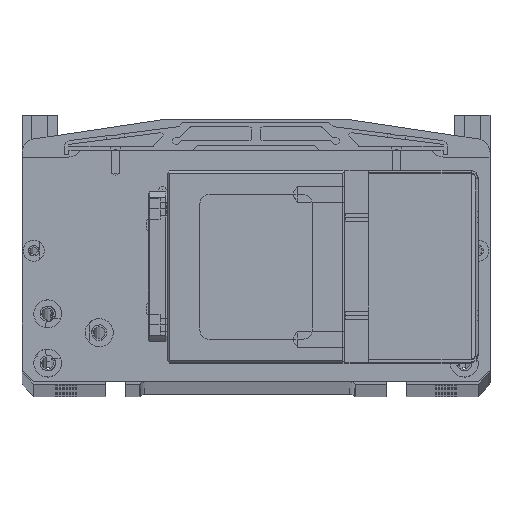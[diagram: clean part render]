
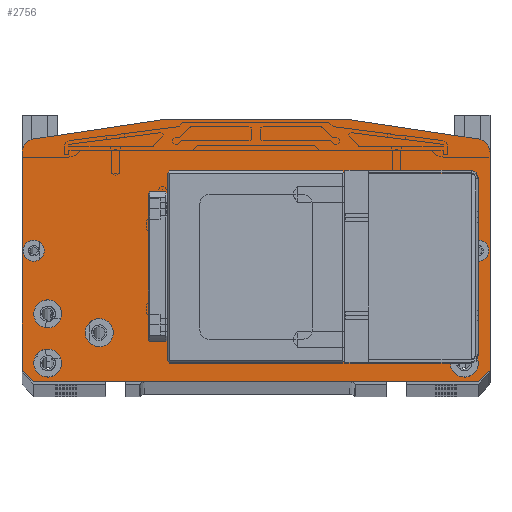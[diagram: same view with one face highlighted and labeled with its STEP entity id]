
A CAD part, top view. The second image highlights one B-rep face of the part: STEP entity #2756.
In plain terms, the highlighted planar face has unit normal (0, 0, 1).
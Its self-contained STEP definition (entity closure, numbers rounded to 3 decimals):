
#620=FACE_BOUND('',#5449,.T.);
#621=FACE_BOUND('',#5450,.T.);
#622=FACE_BOUND('',#5451,.T.);
#623=FACE_BOUND('',#5452,.T.);
#624=FACE_BOUND('',#5453,.T.);
#625=FACE_BOUND('',#5454,.T.);
#626=FACE_BOUND('',#5455,.T.);
#627=FACE_BOUND('',#5456,.T.);
#628=FACE_BOUND('',#5457,.T.);
#629=FACE_BOUND('',#5458,.T.);
#630=FACE_BOUND('',#5459,.T.);
#631=FACE_BOUND('',#5460,.T.);
#632=FACE_BOUND('',#5461,.T.);
#2756=ADVANCED_FACE('',(#620,#621,#622,#623,#624,#625,#626,#627,#628,#629,
#630,#631,#632),#3467,.F.);
#3467=PLANE('',#22692);
#5449=EDGE_LOOP('',(#10928,#10929,#10930,#10931));
#5450=EDGE_LOOP('',(#10932,#10933,#10934,#10935));
#5451=EDGE_LOOP('',(#10936));
#5452=EDGE_LOOP('',(#10937));
#5453=EDGE_LOOP('',(#10938,#10939,#10940,#10941,#10942,#10943,#10944,#10945,
#10946,#10947));
#5454=EDGE_LOOP('',(#10948));
#5455=EDGE_LOOP('',(#10949));
#5456=EDGE_LOOP('',(#10950));
#5457=EDGE_LOOP('',(#10951));
#5458=EDGE_LOOP('',(#10952));
#5459=EDGE_LOOP('',(#10953));
#5460=EDGE_LOOP('',(#10954));
#5461=EDGE_LOOP('',(#10955));
#6728=CIRCLE('',#22574,1.65);
#6743=CIRCLE('',#22603,1.65);
#6748=CIRCLE('',#22617,6.);
#6755=CIRCLE('',#22631,6.);
#6756=CIRCLE('',#22634,4.5);
#6760=CIRCLE('',#22641,4.5);
#6764=CIRCLE('',#22648,6.);
#6768=CIRCLE('',#22655,6.);
#6772=CIRCLE('',#22662,6.);
#6776=CIRCLE('',#22669,6.);
#6780=CIRCLE('',#22676,6.);
#6784=CIRCLE('',#22683,6.);
#10928=ORIENTED_EDGE('',*,*,#17421,.F.);
#10929=ORIENTED_EDGE('',*,*,#17422,.F.);
#10930=ORIENTED_EDGE('',*,*,#17423,.T.);
#10931=ORIENTED_EDGE('',*,*,#17424,.T.);
#10932=ORIENTED_EDGE('',*,*,#17264,.T.);
#10933=ORIENTED_EDGE('',*,*,#17267,.T.);
#10934=ORIENTED_EDGE('',*,*,#17287,.T.);
#10935=ORIENTED_EDGE('',*,*,#17260,.T.);
#10936=ORIENTED_EDGE('',*,*,#17322,.T.);
#10937=ORIENTED_EDGE('',*,*,#17350,.T.);
#10938=ORIENTED_EDGE('',*,*,#17355,.F.);
#10939=ORIENTED_EDGE('',*,*,#16197,.T.);
#10940=ORIENTED_EDGE('',*,*,#17387,.F.);
#10941=ORIENTED_EDGE('',*,*,#16221,.T.);
#10942=ORIENTED_EDGE('',*,*,#17386,.F.);
#10943=ORIENTED_EDGE('',*,*,#17357,.F.);
#10944=ORIENTED_EDGE('',*,*,#17363,.T.);
#10945=ORIENTED_EDGE('',*,*,#17366,.F.);
#10946=ORIENTED_EDGE('',*,*,#17367,.F.);
#10947=ORIENTED_EDGE('',*,*,#15876,.T.);
#10948=ORIENTED_EDGE('',*,*,#17417,.T.);
#10949=ORIENTED_EDGE('',*,*,#17413,.T.);
#10950=ORIENTED_EDGE('',*,*,#17409,.T.);
#10951=ORIENTED_EDGE('',*,*,#17405,.T.);
#10952=ORIENTED_EDGE('',*,*,#17401,.T.);
#10953=ORIENTED_EDGE('',*,*,#17397,.T.);
#10954=ORIENTED_EDGE('',*,*,#17393,.T.);
#10955=ORIENTED_EDGE('',*,*,#17389,.T.);
#13641=VERTEX_POINT('',#34412);
#13642=VERTEX_POINT('',#34414);
#13828=VERTEX_POINT('',#35704);
#13829=VERTEX_POINT('',#35706);
#13838=VERTEX_POINT('',#35749);
#13839=VERTEX_POINT('',#35751);
#14521=VERTEX_POINT('',#39741);
#14525=VERTEX_POINT('',#39750);
#14528=VERTEX_POINT('',#39758);
#14530=VERTEX_POINT('',#39764);
#14571=VERTEX_POINT('',#39898);
#14588=VERTEX_POINT('',#39957);
#14595=VERTEX_POINT('',#39977);
#14596=VERTEX_POINT('',#39978);
#14600=VERTEX_POINT('',#39988);
#14602=VERTEX_POINT('',#39994);
#14609=VERTEX_POINT('',#40035);
#14612=VERTEX_POINT('',#40045);
#14615=VERTEX_POINT('',#40055);
#14618=VERTEX_POINT('',#40065);
#14621=VERTEX_POINT('',#40075);
#14624=VERTEX_POINT('',#40085);
#14627=VERTEX_POINT('',#40095);
#14630=VERTEX_POINT('',#40105);
#14633=VERTEX_POINT('',#40117);
#14634=VERTEX_POINT('',#40118);
#14635=VERTEX_POINT('',#40120);
#14636=VERTEX_POINT('',#40122);
#15876=EDGE_CURVE('',#13642,#13641,#18382,.T.);
#16197=EDGE_CURVE('',#13829,#13828,#18575,.T.);
#16221=EDGE_CURVE('',#13839,#13838,#18595,.T.);
#17260=EDGE_CURVE('',#14521,#14525,#19200,.T.);
#17264=EDGE_CURVE('',#14525,#14528,#19204,.T.);
#17267=EDGE_CURVE('',#14528,#14530,#19207,.T.);
#17287=EDGE_CURVE('',#14530,#14521,#19227,.T.);
#17322=EDGE_CURVE('',#14571,#14571,#6728,.T.);
#17350=EDGE_CURVE('',#14588,#14588,#6743,.T.);
#17355=EDGE_CURVE('',#13829,#13641,#19247,.T.);
#17357=EDGE_CURVE('',#14595,#14596,#19249,.T.);
#17363=EDGE_CURVE('',#14595,#14600,#19255,.T.);
#17366=EDGE_CURVE('',#14602,#14600,#19258,.T.);
#17367=EDGE_CURVE('',#13642,#14602,#6748,.T.);
#17386=EDGE_CURVE('',#14596,#13838,#6755,.T.);
#17387=EDGE_CURVE('',#13839,#13828,#19271,.T.);
#17389=EDGE_CURVE('',#14609,#14609,#6756,.T.);
#17393=EDGE_CURVE('',#14612,#14612,#6760,.T.);
#17397=EDGE_CURVE('',#14615,#14615,#6764,.T.);
#17401=EDGE_CURVE('',#14618,#14618,#6768,.T.);
#17405=EDGE_CURVE('',#14621,#14621,#6772,.T.);
#17409=EDGE_CURVE('',#14624,#14624,#6776,.T.);
#17413=EDGE_CURVE('',#14627,#14627,#6780,.T.);
#17417=EDGE_CURVE('',#14630,#14630,#6784,.T.);
#17421=EDGE_CURVE('',#14633,#14634,#19273,.T.);
#17422=EDGE_CURVE('',#14635,#14633,#19274,.T.);
#17423=EDGE_CURVE('',#14635,#14636,#19275,.T.);
#17424=EDGE_CURVE('',#14636,#14634,#19276,.T.);
#18382=LINE('',#34413,#19954);
#18575=LINE('',#35705,#20147);
#18595=LINE('',#35750,#20167);
#19200=LINE('',#39751,#20772);
#19204=LINE('',#39759,#20776);
#19207=LINE('',#39765,#20779);
#19227=LINE('',#39801,#20799);
#19247=LINE('',#39973,#20819);
#19249=LINE('',#39976,#20821);
#19255=LINE('',#39989,#20827);
#19258=LINE('',#39995,#20830);
#19271=LINE('',#40031,#20843);
#19273=LINE('',#40116,#20845);
#19274=LINE('',#40119,#20846);
#19275=LINE('',#40121,#20847);
#19276=LINE('',#40123,#20848);
#19954=VECTOR('',#24527,1.);
#20147=VECTOR('',#25028,1.);
#20167=VECTOR('',#25078,1.);
#20772=VECTOR('',#27131,1.);
#20776=VECTOR('',#27137,1.);
#20779=VECTOR('',#27142,1.);
#20799=VECTOR('',#27174,1.);
#20819=VECTOR('',#27390,1.);
#20821=VECTOR('',#27394,1.);
#20827=VECTOR('',#27402,1.);
#20830=VECTOR('',#27407,1.);
#20843=VECTOR('',#27454,1.);
#20845=VECTOR('',#27574,1.);
#20846=VECTOR('',#27575,1.);
#20847=VECTOR('',#27576,1.);
#20848=VECTOR('',#27577,1.);
#22574=AXIS2_PLACEMENT_3D('',#39897,#27299,#27300);
#22603=AXIS2_PLACEMENT_3D('',#39956,#27370,#27371);
#22617=AXIS2_PLACEMENT_3D('',#39997,#27410,#27411);
#22631=AXIS2_PLACEMENT_3D('',#40029,#27450,#27451);
#22634=AXIS2_PLACEMENT_3D('',#40034,#27458,#27459);
#22641=AXIS2_PLACEMENT_3D('',#40044,#27472,#27473);
#22648=AXIS2_PLACEMENT_3D('',#40054,#27486,#27487);
#22655=AXIS2_PLACEMENT_3D('',#40064,#27500,#27501);
#22662=AXIS2_PLACEMENT_3D('',#40074,#27514,#27515);
#22669=AXIS2_PLACEMENT_3D('',#40084,#27528,#27529);
#22676=AXIS2_PLACEMENT_3D('',#40094,#27542,#27543);
#22683=AXIS2_PLACEMENT_3D('',#40104,#27556,#27557);
#22692=AXIS2_PLACEMENT_3D('',#40124,#27578,#27579);
#24527=DIRECTION('',(0.,-1.,0.));
#25028=DIRECTION('',(1.,0.,0.));
#25078=DIRECTION('',(0.,1.,0.));
#27131=DIRECTION('',(0.,1.,0.));
#27137=DIRECTION('',(1.,0.,0.));
#27142=DIRECTION('',(0.,-1.,0.));
#27174=DIRECTION('',(-1.,0.,0.));
#27299=DIRECTION('',(0.,0.,-1.));
#27300=DIRECTION('',(1.,0.,0.));
#27370=DIRECTION('',(0.,0.,-1.));
#27371=DIRECTION('',(1.,0.,0.));
#27390=DIRECTION('',(-0.707,0.707,0.));
#27394=DIRECTION('',(0.989,-0.148,0.));
#27402=DIRECTION('',(-1.,0.,0.));
#27407=DIRECTION('',(0.989,0.148,0.));
#27410=DIRECTION('',(0.,0.,-1.));
#27411=DIRECTION('',(-1.,0.,0.));
#27450=DIRECTION('',(0.,0.,-1.));
#27451=DIRECTION('',(0.148,0.989,0.));
#27454=DIRECTION('',(-0.707,-0.707,0.));
#27458=DIRECTION('',(0.,0.,-1.));
#27459=DIRECTION('',(1.,0.,0.));
#27472=DIRECTION('',(0.,0.,-1.));
#27473=DIRECTION('',(1.,0.,0.));
#27486=DIRECTION('',(0.,0.,-1.));
#27487=DIRECTION('',(1.,0.,0.));
#27500=DIRECTION('',(0.,0.,-1.));
#27501=DIRECTION('',(1.,0.,0.));
#27514=DIRECTION('',(0.,0.,-1.));
#27515=DIRECTION('',(1.,0.,0.));
#27528=DIRECTION('',(0.,0.,-1.));
#27529=DIRECTION('',(1.,0.,0.));
#27542=DIRECTION('',(0.,0.,-1.));
#27543=DIRECTION('',(1.,0.,0.));
#27556=DIRECTION('',(0.,0.,-1.));
#27557=DIRECTION('',(1.,0.,0.));
#27574=DIRECTION('',(1.,0.,0.));
#27575=DIRECTION('',(0.,-1.,0.));
#27576=DIRECTION('',(1.,0.,0.));
#27577=DIRECTION('',(0.,-1.,0.));
#27578=DIRECTION('',(0.,0.,-1.));
#27579=DIRECTION('',(-1.,0.,0.));
#34412=CARTESIAN_POINT('',(-100.,7.,463.));
#34413=CARTESIAN_POINT('',(-100.,99.833,463.));
#34414=CARTESIAN_POINT('',(-100.,99.833,463.));
#35704=CARTESIAN_POINT('',(95.,2.,463.));
#35705=CARTESIAN_POINT('',(67.5,2.,463.));
#35706=CARTESIAN_POINT('',(-95.,2.,463.));
#35749=CARTESIAN_POINT('',(100.,99.833,463.));
#35750=CARTESIAN_POINT('',(100.,7.,463.));
#35751=CARTESIAN_POINT('',(100.,7.,463.));
#39741=CARTESIAN_POINT('',(-37.,11.,463.));
#39750=CARTESIAN_POINT('',(-37.,91.,463.));
#39751=CARTESIAN_POINT('',(-37.,11.,463.));
#39758=CARTESIAN_POINT('',(37.,91.,463.));
#39759=CARTESIAN_POINT('',(-37.,91.,463.));
#39764=CARTESIAN_POINT('',(37.,11.,463.));
#39765=CARTESIAN_POINT('',(37.,91.,463.));
#39801=CARTESIAN_POINT('',(37.,11.,463.));
#39897=CARTESIAN_POINT('',(42.,69.,463.));
#39898=CARTESIAN_POINT('',(43.65,69.,463.));
#39956=CARTESIAN_POINT('',(42.,33.,463.));
#39957=CARTESIAN_POINT('',(43.65,33.,463.));
#39973=CARTESIAN_POINT('',(-95.,2.,463.));
#39976=CARTESIAN_POINT('',(40.,114.,463.));
#39977=CARTESIAN_POINT('',(40.,114.,463.));
#39978=CARTESIAN_POINT('',(94.89,105.766,463.));
#39988=CARTESIAN_POINT('',(-40.,114.,463.));
#39989=CARTESIAN_POINT('',(40.,114.,463.));
#39994=CARTESIAN_POINT('',(-94.89,105.766,463.));
#39995=CARTESIAN_POINT('',(-94.89,105.766,463.));
#39997=CARTESIAN_POINT('',(-94.,99.833,463.));
#40029=CARTESIAN_POINT('',(94.,99.833,463.));
#40031=CARTESIAN_POINT('',(100.,7.,463.));
#40034=CARTESIAN_POINT('',(-95.,58.,463.));
#40035=CARTESIAN_POINT('',(-90.5,58.,463.));
#40044=CARTESIAN_POINT('',(95.,58.,463.));
#40045=CARTESIAN_POINT('',(99.5,58.,463.));
#40054=CARTESIAN_POINT('',(-67.,23.,463.));
#40055=CARTESIAN_POINT('',(-61.,23.,463.));
#40064=CARTESIAN_POINT('',(67.,23.,463.));
#40065=CARTESIAN_POINT('',(73.,23.,463.));
#40074=CARTESIAN_POINT('',(-89.,31.,463.));
#40075=CARTESIAN_POINT('',(-83.,31.,463.));
#40084=CARTESIAN_POINT('',(89.,31.,463.));
#40085=CARTESIAN_POINT('',(95.,31.,463.));
#40094=CARTESIAN_POINT('',(-89.,10.,463.));
#40095=CARTESIAN_POINT('',(-83.,10.,463.));
#40104=CARTESIAN_POINT('',(89.,10.,463.));
#40105=CARTESIAN_POINT('',(95.,10.,463.));
#40116=CARTESIAN_POINT('',(-45.5,21.534,463.));
#40117=CARTESIAN_POINT('',(-45.5,21.534,463.));
#40118=CARTESIAN_POINT('',(-38.5,21.534,463.));
#40119=CARTESIAN_POINT('',(-45.5,80.466,463.));
#40120=CARTESIAN_POINT('',(-45.5,80.466,463.));
#40121=CARTESIAN_POINT('',(-45.5,80.466,463.));
#40122=CARTESIAN_POINT('',(-38.5,80.466,463.));
#40123=CARTESIAN_POINT('',(-38.5,80.466,463.));
#40124=CARTESIAN_POINT('',(0.,2.,463.));
